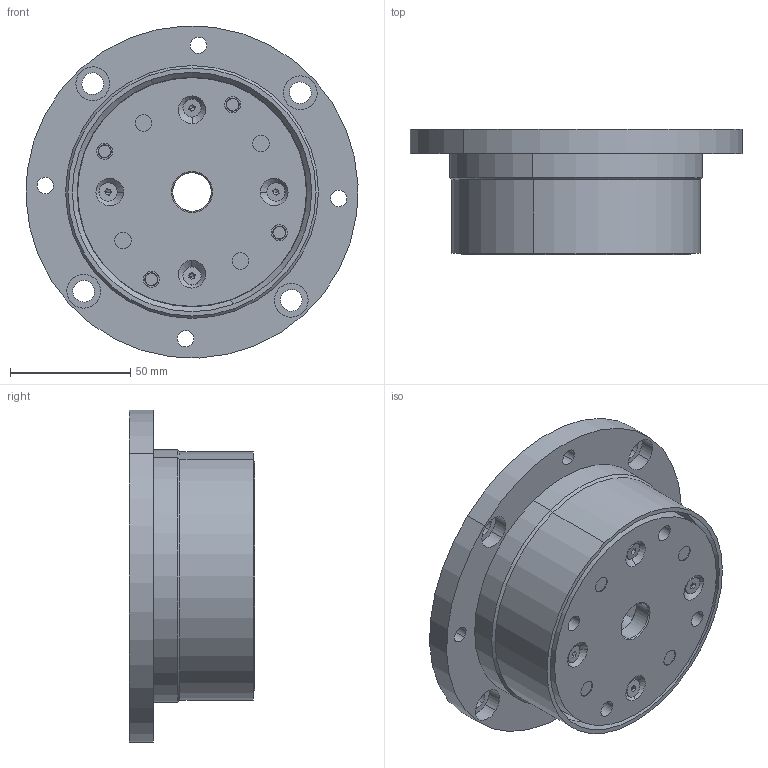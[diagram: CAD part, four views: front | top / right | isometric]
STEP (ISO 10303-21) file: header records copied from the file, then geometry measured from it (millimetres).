
FILE_DESCRIPTION (( 'STEP AP203' ), '1' );
FILE_NAME ('FB-120-95.STEP', '2024-08-08T14:08:43', ( '' ), ( '' ), 'SwSTEP 2.0', 'SolidWorks 2020', '' );
FILE_SCHEMA (( 'CONFIG_CONTROL_DESIGN' ));
Length unit declared in the file: millimetre
Products named in the file (1): FB-120-95
Bounding box: 137.87 x 52 x 137.87 mm (x, y, z)
Surface area: 77776.9 mm2 (no closed solid volume)
Topology: 0 solids, 39 shells, 263 faces, 764 edges, 508 vertices
Faces by surface type: plane 103, cylinder 98, cone 46, torus 16
Entity records: 8659 total; most frequent: DIRECTION 1604, CARTESIAN_POINT 1560, ORIENTED_EDGE 1202, EDGE_CURVE 740, AXIS2_PLACEMENT_3D 616, VERTEX_POINT 508, VECTOR 372, LINE 372
